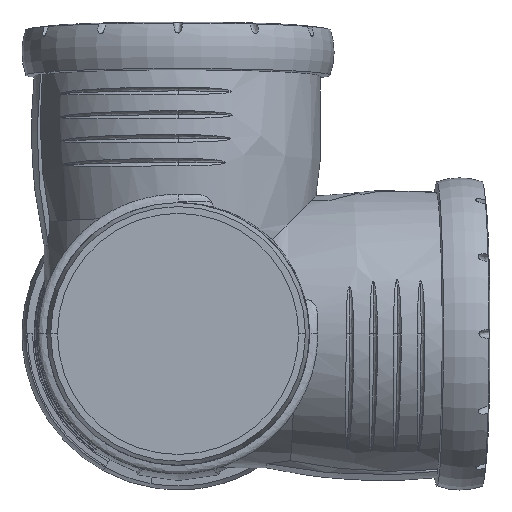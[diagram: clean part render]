
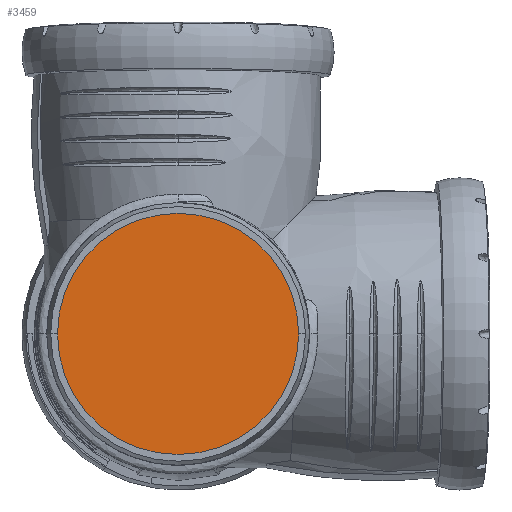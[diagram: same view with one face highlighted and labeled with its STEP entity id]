
A CAD part, front view. The second image highlights one B-rep face of the part: STEP entity #3459.
In plain terms, the highlighted planar face has unit normal (0, -1, 0).
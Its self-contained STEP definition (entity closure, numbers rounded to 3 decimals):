
#623=PLANE('',#3678);
#675=FACE_OUTER_BOUND('',#889,.T.);
#889=EDGE_LOOP('',(#2176));
#1141=CIRCLE('',#3675,50.6);
#1287=VERTEX_POINT('',#4438);
#1645=EDGE_CURVE('',#1287,#1287,#1141,.T.);
#2176=ORIENTED_EDGE('',*,*,#1645,.F.);
#3459=ADVANCED_FACE('',(#675),#623,.F.);
#3675=AXIS2_PLACEMENT_3D('',#4439,#3918,#3919);
#3678=AXIS2_PLACEMENT_3D('',#4444,#3924,#3925);
#3918=DIRECTION('center_axis',(0.,1.,0.));
#3919=DIRECTION('ref_axis',(-1.,0.,0.));
#3924=DIRECTION('center_axis',(0.,1.,0.));
#3925=DIRECTION('ref_axis',(0.,0.,1.));
#4438=CARTESIAN_POINT('',(50.6,69.1,0.));
#4439=CARTESIAN_POINT('Origin',(0.,69.1,0.));
#4444=CARTESIAN_POINT('Origin',(0.,69.1,0.));
